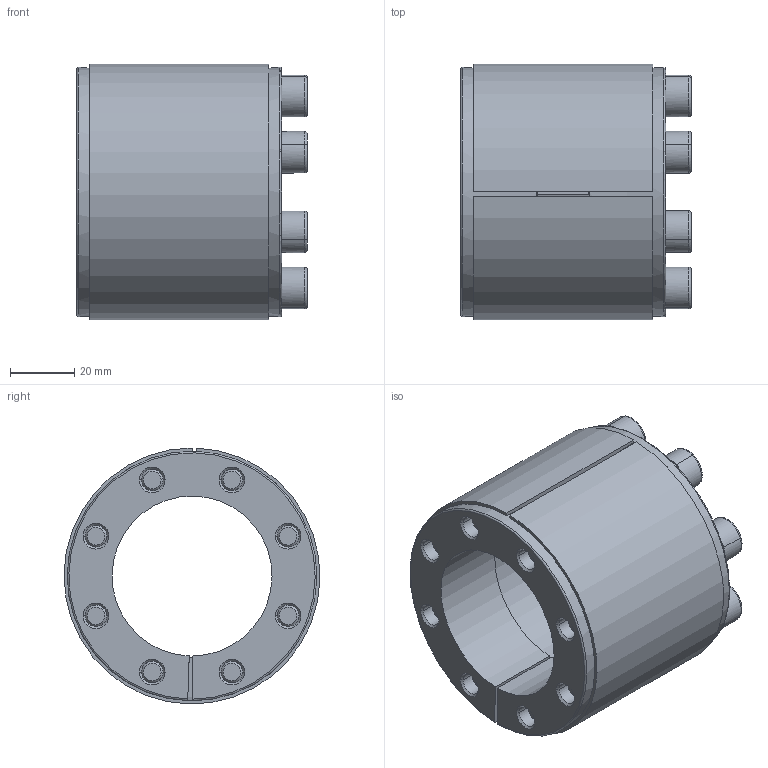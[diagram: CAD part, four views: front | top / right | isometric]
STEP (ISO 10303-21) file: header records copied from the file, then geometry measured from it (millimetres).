
FILE_DESCRIPTION((''),'2;1');
FILE_NAME('398-016-0050','2024-02-19T',('Brieden'),('Brieden'),'PRO/ENGINEER BY PARAMETRIC TECHNOLOGY CORPORATION, 2010160','PRO/ENGINEER BY PARAMETRIC TECHNOLOGY CORPORATION, 2010160','');
FILE_SCHEMA(('AUTOMOTIVE_DESIGN { 1 0 10303 214 1 1 1 1 }'));
Length unit declared in the file: millimetre
Products named in the file (1): 398-016-0050
Bounding box: 72 x 79.98 x 79.99 mm (x, y, z)
Volume: 187283.1 mm3; surface area: 88507 mm2
Topology: 2 solids, 10 shells, 280 faces, 686 edges, 436 vertices
Faces by surface type: cylinder 108, plane 102, cone 52, torus 18
Entity records: 10668 total; most frequent: DIRECTION 1610, CARTESIAN_POINT 1405, ORIENTED_EDGE 1340, PRESENTATION_STYLE_ASSIGNMENT 704, STYLED_ITEM 696, CURVE_STYLE 686, EDGE_CURVE 686, AXIS2_PLACEMENT_3D 641
